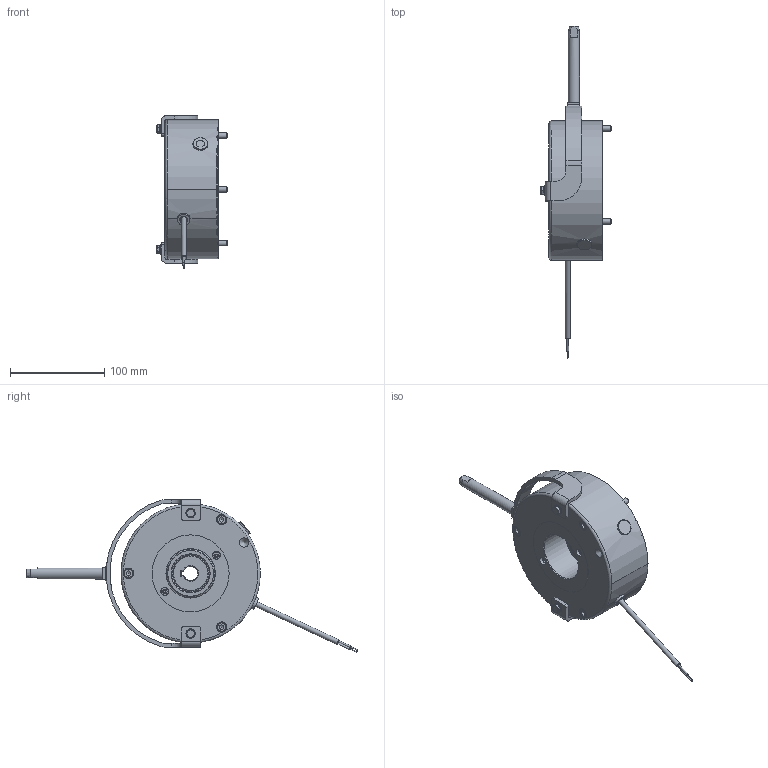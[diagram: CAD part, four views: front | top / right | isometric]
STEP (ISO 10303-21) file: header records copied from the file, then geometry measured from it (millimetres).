
FILE_DESCRIPTION(/* description */ (''),/* implementation_level */ '2;1');
FILE_NAME(/* name */ 'C:\SapWorkDir\Inventor\IP1\ConvertTempPath\5028779_IPT_000.ipt.stp',/* time_stamp */ '2020-09-17T15:02:39+02:00',/* author */ ('STRATE'),/* organization */ (''),/* preprocessor_version */ 'ST-DEVELOPER v17',/* originating_system */ 'Autodesk Inventor 2018',/* authorisation */ '');
FILE_SCHEMA (('AUTOMOTIVE_DESIGN { 1 0 10303 214 3 1 1 }'));
Length unit declared in the file: millimetre
Products named in the file (1): 5028779
Bounding box: 74.5 x 352.95 x 162.61 mm (x, y, z)
Volume: 869798.4 mm3; surface area: 163165.7 mm2
Topology: 3 solids, 3 shells, 615 faces, 1653 edges, 1110 vertices
Faces by surface type: cylinder 349, plane 191, cone 56, torus 19
Full cylindrical faces by diameter (mm): 0.01 x1, 1 x2, 1.85 x2, 5 x4, 5.3 x5, 5.5 x2, 6 x7, 6.2 x3, 6.28 x2, 6.5 x5, 6.6 x1, 6.88 x2, 7 x2, 7.2 x1, 8 x1, 8.376 x2, 8.5 x2, 8.8 x2, 9.2 x2, 9.9 x3, 10 x8, 11 x3, 12 x1, 13.2 x1, 16 x1, 52 x2, 69.5 x2, 70.1 x2, 82 x1, 115 x1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
Entity records: 21206 total; most frequent: CARTESIAN_POINT 5015, ORIENTED_EDGE 3306, DIRECTION 3198, EDGE_CURVE 1653, AXIS2_PLACEMENT_3D 1286, VERTEX_POINT 1110, EDGE_LOOP 711, CIRCLE 670
